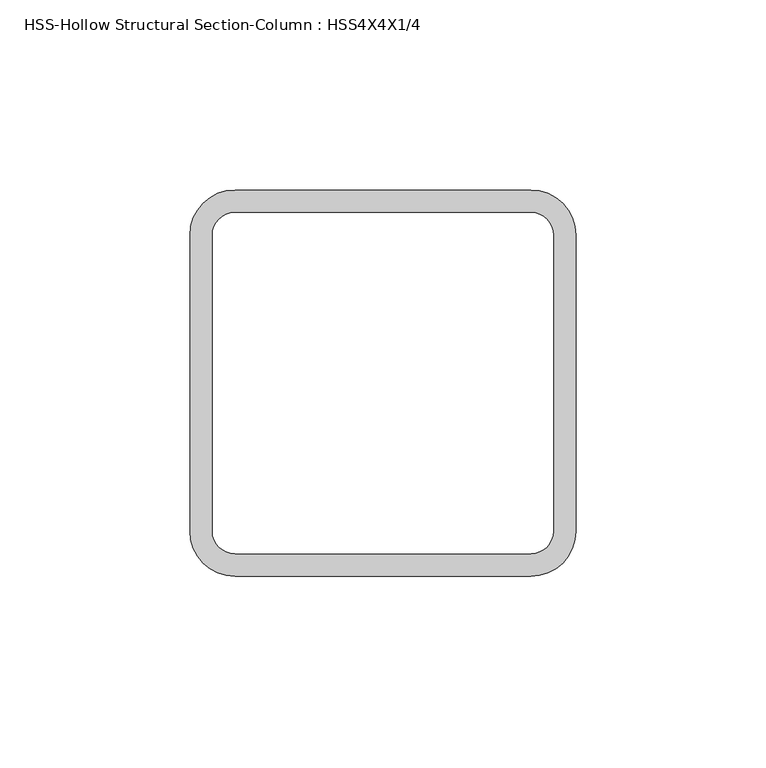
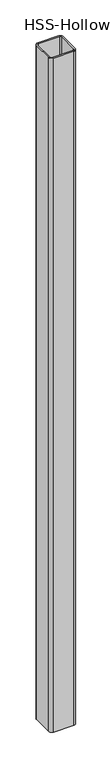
"""IFC4 building model written with IfcOpenShell, lengths in millimetres: column geometry, HSS-Hollow Structural Section-Column : HSS4X4X1/4."""

from ifc_helpers import new_model, si_unit, point, frame, frame_2d, origin, place, context, project, spatial, polyline, circle_curve, trimmed, segment, composite_curve, outline, extrude, source, transform, mapped, element, save


def hss_hollow_structural_section_column_hss4x4x1_4_654df1e9(model_context):
    return source(origin(), model_context, "Body", "SweptSolid", [
        extrude(outline(composite_curve([segment(trimmed(circle_curve(frame_2d((38.9636, 38.9636)), 11.8364), [point((38.9636, 50.8))], [point((50.8, 38.9636))], False, "CARTESIAN"), True, "CONTINUOUS"), segment(polyline([(50.8, 38.9636), (50.8, -38.9636)]), True, "CONTINUOUS"), segment(trimmed(circle_curve(frame_2d((38.9636, -38.9636)), 11.8364), [point((50.8, -38.9636))], [point((38.9636, -50.8))], False, "CARTESIAN"), True, "CONTINUOUS"), segment(polyline([(38.9636, -50.8), (-38.9636, -50.8)]), True, "CONTINUOUS"), segment(trimmed(circle_curve(frame_2d((-38.9636, -38.9636)), 11.8364), [point((-38.9636, -50.8))], [point((-50.8, -38.9636))], False, "CARTESIAN"), True, "CONTINUOUS"), segment(polyline([(-50.8, -38.9636), (-50.8, 38.9636)]), True, "CONTINUOUS"), segment(trimmed(circle_curve(frame_2d((-38.9636, 38.9636)), 11.8364), [point((-50.8, 38.9636))], [point((-38.9636, 50.8))], False, "CARTESIAN"), True, "CONTINUOUS"), segment(polyline([(-38.9636, 50.8), (38.9636, 50.8)]), True, "CONTINUOUS")], self_intersect=False), holes=[composite_curve([segment(polyline([(38.9636, 44.8818), (-38.9636, 44.8818)]), True, "CONTINUOUS"), segment(trimmed(circle_curve(frame_2d((-38.9636, 38.9636)), 5.9182), [point((-38.9636, 44.8818))], [point((-44.8818, 38.9636))], True, "CARTESIAN"), True, "CONTINUOUS"), segment(polyline([(-44.8818, 38.9636), (-44.8818, -38.9636)]), True, "CONTINUOUS"), segment(trimmed(circle_curve(frame_2d((-38.9636, -38.9636)), 5.9182), [point((-44.8818, -38.9636))], [point((-38.9636, -44.8818))], True, "CARTESIAN"), True, "CONTINUOUS"), segment(polyline([(-38.9636, -44.8818), (38.9636, -44.8818)]), True, "CONTINUOUS"), segment(trimmed(circle_curve(frame_2d((38.9636, -38.9636)), 5.9182), [point((38.9636, -44.8818))], [point((44.8818, -38.9636))], True, "CARTESIAN"), True, "CONTINUOUS"), segment(polyline([(44.8818, -38.9636), (44.8818, 38.9636)]), True, "CONTINUOUS"), segment(trimmed(circle_curve(frame_2d((38.9636, 38.9636)), 5.9182), [point((44.8818, 38.9636))], [point((38.9636, 44.8818))], True, "CARTESIAN"), True, "CONTINUOUS")], self_intersect=False)]), frame((0.0, 0.0, 50.8), z_axis=(0.0, 0.0, 1.0), x_axis=(1.0, 0.0, 0.0)), (0.0, 0.0, 1.0), 2692.4),
    ])


if __name__ == "__main__":
    model = new_model("IFC4")
    model_context = context("Model", 3, world=origin())
    ifc_project = project(units=[si_unit("LENGTHUNIT", "METRE", prefix="MILLI")], contexts=[model_context])
    site = spatial("IfcSite", under=ifc_project)
    building = spatial("IfcBuilding", under=site)
    placement = place(None, origin())
    hss_hollow_structural_section_column_hss4x4x1_4_shape = hss_hollow_structural_section_column_hss4x4x1_4_654df1e9(model_context)
    element("IfcColumn", 1, ObjectType="HSS-Hollow Structural Section-Column : HSS4X4X1/4", at=placement, inside=building, context=model_context, shape_type="MappedRepresentation", body=[
        mapped(hss_hollow_structural_section_column_hss4x4x1_4_shape, transform((0.0, 0.0, 0.0), x_axis=(1.0, 0.0, 0.0), y_axis=(0.0, 1.0, 0.0), z_axis=(0.0, 0.0, 1.0))),
    ])
    save(model, "model.ifc")
